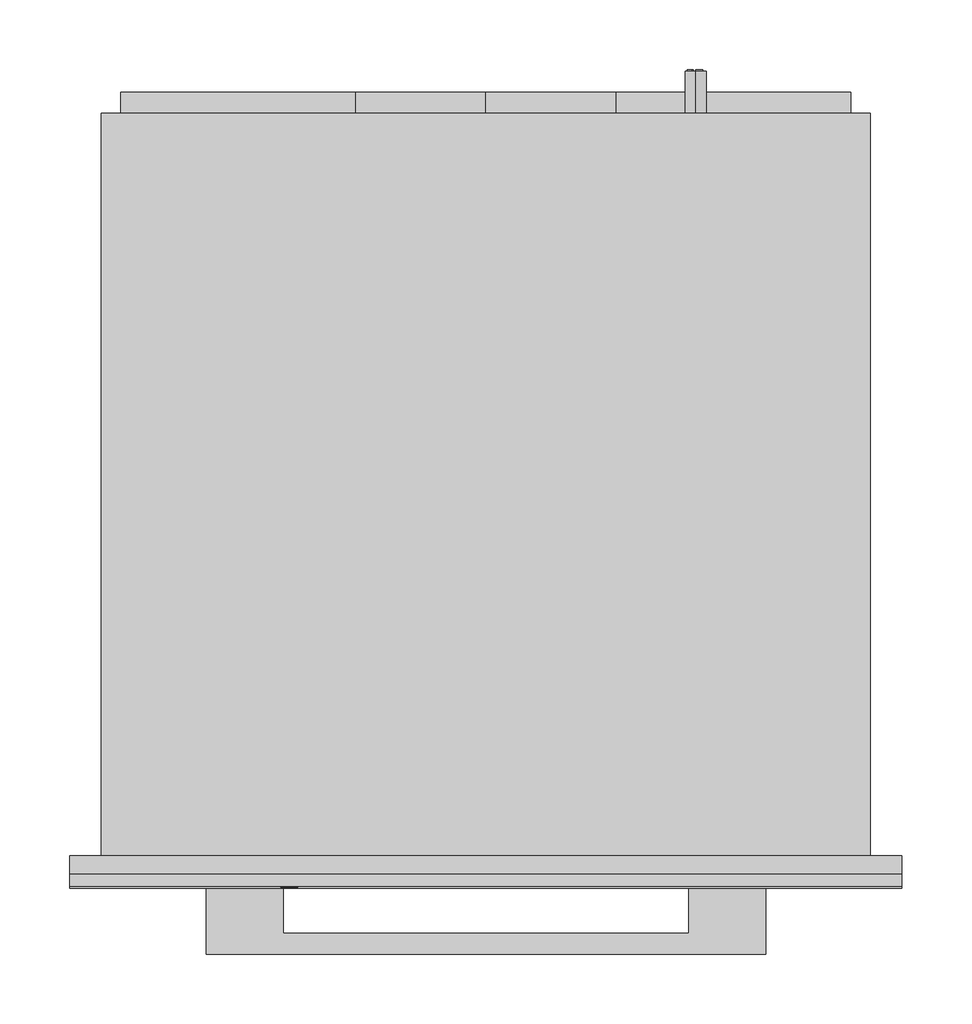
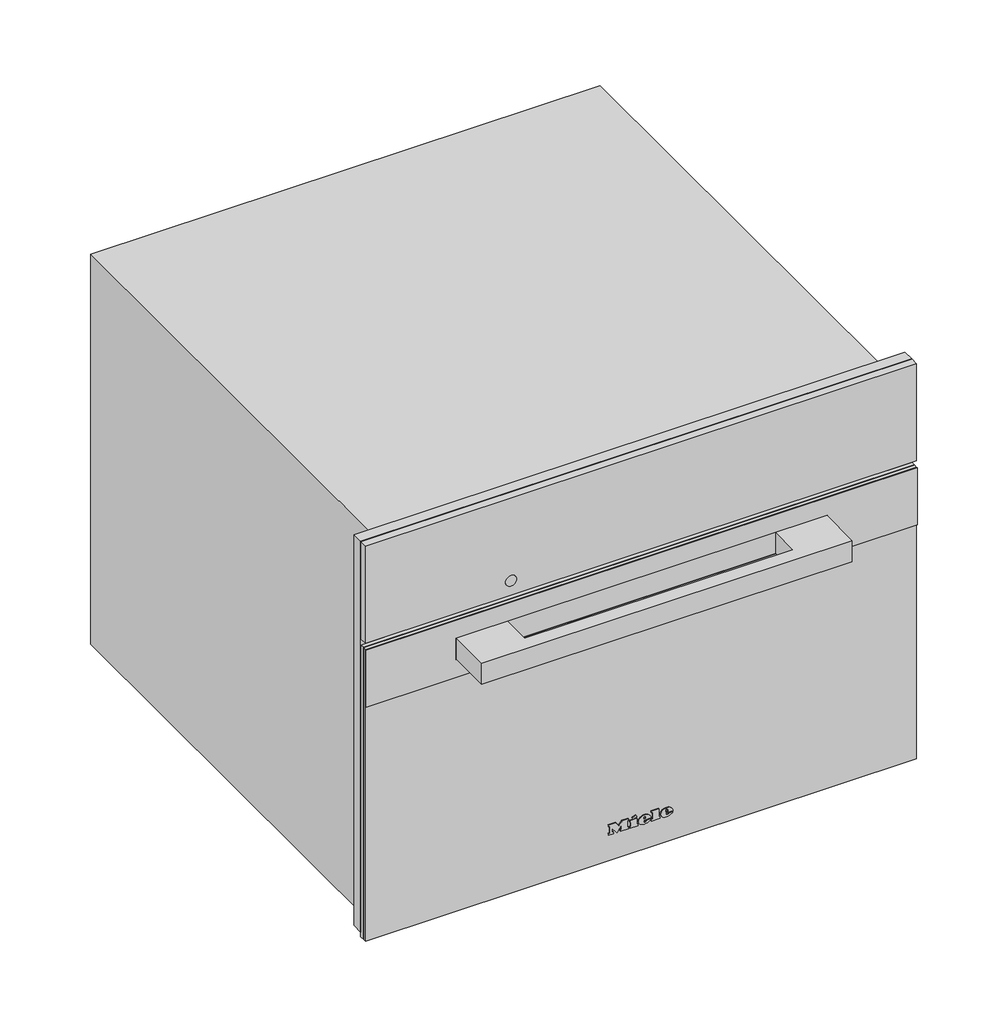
# Not in any storey: 1 proxy.
"""IFC4 building model written with IfcOpenShell, lengths in millimetres."""

import ifcopenshell
import ifcopenshell.guid

model = None  # the IFC model being written
_history = None  # IfcOwnerHistory: only IFC2X3 demands one
_inside = {}  # id of a spatial element -> (the spatial element, [elements in it])
_under = {}  # id of a project, library or spatial element -> (it, [spatial elements below it])
_declared = {}  # id of a project -> (the project, [libraries it declares])
_typed = {}  # id of a type object -> (the type object, [elements of that type])
_made_of = {}  # id of a material, layer set ... -> (it, [elements and type objects made of it])


def new_model(schema):
    """Start an empty IFC model of exactly this schema.

    Asked for "IFC4X3", IfcOpenShell would pick the latest addendum, in which some entities
    have other attributes; the version numbers below select the first issue.
    IFC2X3 requires an IfcOwnerHistory on every rooted entity: one is made here for all.
    """
    global model, _history
    if schema == "IFC4X3":
        model = ifcopenshell.file(schema_version=(4, 3, 0, 0))
    else:
        model = ifcopenshell.file(schema=schema)
    _inside.clear()
    _under.clear()
    _declared.clear()
    _typed.clear()
    _made_of.clear()
    _history = None
    if model.schema == "IFC2X3":
        org = make("IfcOrganization", Name="unknown")
        user = make(
            "IfcPersonAndOrganization",
            ThePerson=make("IfcPerson", FamilyName="unknown"),
            TheOrganization=org,
        )
        app = make(
            "IfcApplication",
            ApplicationDeveloper=org,
            Version="unknown",
            ApplicationFullName="unknown",
            ApplicationIdentifier="unknown",
        )
        _history = make(
            "IfcOwnerHistory",
            OwningUser=user,
            OwningApplication=app,
            ChangeAction="ADDED",
            CreationDate=0,
        )
    return model


def make(cls, **values):
    """One entity of the class cls with the attributes given. An attribute that is None is left unset."""
    return model.create_entity(
        cls, **{name: value for name, value in values.items() if value is not None}
    )


def rooted(cls, **values):
    """An entity with a GlobalId (a new one), such as an element, a storey or a relation."""
    return make(cls, GlobalId=ifcopenshell.guid.new(), OwnerHistory=_history, **values)


def si_unit(unit_type, name, prefix=None):
    """IfcSIUnit, for example si_unit("LENGTHUNIT", "METRE", prefix="MILLI")."""
    return make("IfcSIUnit", UnitType=unit_type, Prefix=prefix, Name=name)


def assignment(units):
    """IfcUnitAssignment: the units of a project."""
    return None if units is None else make("IfcUnitAssignment", Units=units)


def point(xyz):
    """IfcCartesianPoint."""
    return None if xyz is None else make("IfcCartesianPoint", Coordinates=xyz)


def direction(xyz):
    """IfcDirection."""
    return None if xyz is None else make("IfcDirection", DirectionRatios=xyz)


def frame(location, z_axis=None, x_axis=None):
    """IfcAxis2Placement3D, a coordinate frame: its origin and axes. An axis left out is left unset."""
    return make(
        "IfcAxis2Placement3D",
        Location=point(location),
        Axis=direction(z_axis),
        RefDirection=direction(x_axis),
    )


def frame_2d(location, x_axis=None):
    """IfcAxis2Placement2D, a coordinate frame in the plane: its origin and x axis."""
    return make(
        "IfcAxis2Placement2D", Location=point(location), RefDirection=direction(x_axis)
    )


def origin():
    """The frame at (0, 0, 0) with its axes left unset."""
    return frame((0.0, 0.0, 0.0))


def place(relative_to, where):
    """IfcLocalPlacement: puts the frame where relative to a parent placement (None: the world)."""
    return make(
        "IfcLocalPlacement", PlacementRelTo=relative_to, RelativePlacement=where
    )


def context(
    kind, dimensions, precision=None, world=None, true_north=None, identifier=None
):
    """IfcGeometricRepresentationContext, for example the 3D "Model" context."""
    return make(
        "IfcGeometricRepresentationContext",
        ContextIdentifier=identifier,
        ContextType=kind,
        CoordinateSpaceDimension=dimensions,
        Precision=precision,
        WorldCoordinateSystem=world,
        TrueNorth=true_north,
    )


def project(units=None, contexts=None):
    """IfcProject with its units and contexts."""
    return rooted(
        "IfcProject",
        Name="project",
        RepresentationContexts=contexts,
        UnitsInContext=assignment(units),
    )


def spatial(cls, under=None, at=None, **own):
    """A site, building, storey or space (cls), placed at a placement, below another one or the project."""
    s = rooted(cls, ObjectPlacement=at, **own)
    if under is not None:
        _under.setdefault(under.id(), (under, []))[1].append(s)
    return s


def polyline(points):
    """IfcPolyline through the points."""
    return make("IfcPolyline", Points=[point(p) for p in points])


def circle_curve(where, radius):
    """IfcCircle in the frame where."""
    return make("IfcCircle", Position=where, Radius=radius)


def ellipse_curve(where, semi_axis1, semi_axis2):
    """IfcEllipse in the frame where."""
    return make(
        "IfcEllipse", Position=where, SemiAxis1=semi_axis1, SemiAxis2=semi_axis2
    )


def trimmed(basis, trim1, trim2, sense, master):
    """IfcTrimmedCurve: the piece of a basis curve between two trims."""
    return make(
        "IfcTrimmedCurve",
        BasisCurve=basis,
        Trim1=trim1,
        Trim2=trim2,
        SenseAgreement=sense,
        MasterRepresentation=master,
    )


def segment(curve, same_sense, transition):
    """IfcCompositeCurveSegment."""
    return make(
        "IfcCompositeCurveSegment",
        Transition=transition,
        SameSense=same_sense,
        ParentCurve=curve,
    )


def composite_curve(segments, self_intersect=None):
    """IfcCompositeCurve: segments joined end to end."""
    return make("IfcCompositeCurve", Segments=segments, SelfIntersect=self_intersect)


def outline(outer, holes=None, kind="AREA"):
    """IfcArbitraryClosedProfileDef: a profile drawn as a closed curve; with holes, ...WithVoids."""
    if holes is None:
        return make("IfcArbitraryClosedProfileDef", ProfileType=kind, OuterCurve=outer)
    return make(
        "IfcArbitraryProfileDefWithVoids",
        ProfileType=kind,
        OuterCurve=outer,
        InnerCurves=holes,
    )


def extrude(swept, where, along, depth):
    """IfcExtrudedAreaSolid: the profile swept, set in the frame where, extruded along a direction by depth."""
    return make(
        "IfcExtrudedAreaSolid",
        SweptArea=swept,
        Position=where,
        ExtrudedDirection=direction(along),
        Depth=depth,
    )


def faces_of(points, faces, orient=None, outer=None):
    """IfcFace entities. A face is a list of loops; a loop is a list of indices into points, from 0.

    orient and outer hold one flag for each loop. By default every Orientation is true, the
    first loop of a face is its IfcFaceOuterBound and the others are IfcFaceBound.
    """
    made = []
    for i, loops in enumerate(faces):
        bounds = []
        for j, loop in enumerate(loops):
            is_outer = j == 0 if outer is None else outer[i][j]
            bounds.append(
                make(
                    "IfcFaceOuterBound" if is_outer else "IfcFaceBound",
                    Bound=make("IfcPolyLoop", Polygon=[points[k] for k in loop]),
                    Orientation=True if orient is None else orient[i][j],
                )
            )
        made.append(make("IfcFace", Bounds=bounds))
    return made


def faceted_brep(points, faces, orient=None, outer=None, voids=None):
    """IfcFacetedBrep: a solid bounded by flat faces; with voids (closed shells), ...WithVoids."""
    shared = [point(p) for p in points]
    hull = make("IfcClosedShell", CfsFaces=faces_of(shared, faces, orient, outer))
    if voids is None:
        return make("IfcFacetedBrep", Outer=hull)
    return make(
        "IfcFacetedBrepWithVoids",
        Outer=hull,
        Voids=[
            make(cls, CfsFaces=faces_of(shared, fs, o, b)) for cls, fs, o, b in voids
        ],
    )


def shape(context_of_items, identifier, shape_type, items):
    """IfcShapeRepresentation: the items that make up one representation, for example the "Body"."""
    return make(
        "IfcShapeRepresentation",
        ContextOfItems=context_of_items,
        RepresentationIdentifier=identifier,
        RepresentationType=shape_type,
        Items=items,
    )


def source(mapping_origin, context_of_items, identifier, shape_type, items):
    """IfcRepresentationMap: a shape defined once, which mapped items show again and again."""
    return make(
        "IfcRepresentationMap",
        MappingOrigin=mapping_origin,
        MappedRepresentation=shape(context_of_items, identifier, shape_type, items),
    )


def transform(
    local_origin,
    x_axis=None,
    y_axis=None,
    z_axis=None,
    scale=None,
    scale2=None,
    scale3=None,
    uniform=True,
):
    """IfcCartesianTransformationOperator3D, or its non-uniform kind. x_axis, y_axis, z_axis: its Axis1, 2, 3."""
    if uniform:
        return make(
            "IfcCartesianTransformationOperator3D",
            Axis1=direction(x_axis),
            Axis2=direction(y_axis),
            LocalOrigin=point(local_origin),
            Scale=scale,
            Axis3=direction(z_axis),
        )
    return make(
        "IfcCartesianTransformationOperator3DnonUniform",
        Axis1=direction(x_axis),
        Axis2=direction(y_axis),
        LocalOrigin=point(local_origin),
        Scale=scale,
        Axis3=direction(z_axis),
        Scale2=scale2,
        Scale3=scale3,
    )


def mapped(mapping_source, mapping_target):
    """IfcMappedItem: shows the shape of a source again, moved by a transform."""
    return make(
        "IfcMappedItem", MappingSource=mapping_source, MappingTarget=mapping_target
    )


def made_of(thing, what):
    """Note that an element or type object is made of a material, layer set ...; save() writes the relation."""
    if what is not None:
        _made_of.setdefault(what.id(), (what, []))[1].append(thing)
    return thing


def element(
    cls,
    number,
    at=None,
    inside=None,
    cuts=None,
    type_object=None,
    material=None,
    context=None,
    identifier="Body",
    shape_type=None,
    held_by="IfcProductDefinitionShape",
    body=None,
    shapes=None,
    **own,
):
    """One element of the class cls, such as IfcWall. Its Tag is "e" and its number.

    at: its placement. inside: the storey or other place that contains it. cuts: it is an
    opening in that element (IfcRelVoidsElement). A single representation is given by context,
    identifier, shape_type and body (its items); several are given by shapes. held_by: the class
    of the entity that holds the representations. save() writes the other relations.
    """
    e = rooted(cls, Tag="e%d" % number, ObjectPlacement=at, **own)
    if body is not None:
        shapes = [shape(context, identifier, shape_type, body)]
    if shapes is not None:
        e.Representation = make(held_by, Representations=shapes)
    if inside is not None:
        _inside.setdefault(inside.id(), (inside, []))[1].append(e)
    if cuts is not None:
        rooted(
            "IfcRelVoidsElement", RelatingBuildingElement=cuts, RelatedOpeningElement=e
        )
    if type_object is not None:
        _typed.setdefault(type_object.id(), (type_object, []))[1].append(e)
    return made_of(e, material)


def aggregate(whole, parts):
    """IfcRelAggregates: a whole, such as a stair, and the parts it consists of."""
    return rooted("IfcRelAggregates", RelatingObject=whole, RelatedObjects=parts)


def save(model, path):
    """Write the relations noted so far, then the file.

    IfcRelAggregates (storeys below a building ...), IfcRelContainedInSpatialStructure (elements
    in a storey), IfcRelDefinesByType, IfcRelAssociatesMaterial and IfcRelDeclares: one each for
    every whole, place, type object, material and project.
    """
    for whole, parts in _under.values():
        aggregate(whole, parts)
    for where, things in _inside.values():
        rooted(
            "IfcRelContainedInSpatialStructure",
            RelatedElements=things,
            RelatingStructure=where,
        )
    for kind, things in _typed.values():
        rooted("IfcRelDefinesByType", RelatedObjects=things, RelatingType=kind)
    for what, things in _made_of.values():
        rooted("IfcRelAssociatesMaterial", RelatedObjects=things, RelatingMaterial=what)
    for by, libraries in _declared.values():
        rooted("IfcRelDeclares", RelatingContext=by, RelatedDefinitions=libraries)
    model.write(path)


def plane_surface(at):
    """IfcPlane: the flat surface through the origin of the frame at, square to its z axis."""
    return make("IfcPlane", Position=at)


def cylinder_surface(at, radius):
    """IfcCylindricalSurface: all points at the distance radius from the z axis of the frame at."""
    return make("IfcCylindricalSurface", Position=at, Radius=radius)


def revolved_surface(curve, axis_point, axis_direction):
    """IfcSurfaceOfRevolution: the curve turned about the line through axis_point along axis_direction."""
    return make(
        "IfcSurfaceOfRevolution",
        SweptCurve=make("IfcArbitraryOpenProfileDef", ProfileType="CURVE", Curve=curve),
        AxisPosition=make("IfcAxis1Placement", Location=point(axis_point), Axis=direction(axis_direction)),
    )


def extruded_surface(curve, direction_of_extrusion, depth):
    """IfcSurfaceOfLinearExtrusion: the curve pushed along a direction by depth."""
    return make(
        "IfcSurfaceOfLinearExtrusion",
        SweptCurve=make("IfcArbitraryOpenProfileDef", ProfileType="CURVE", Curve=curve),
        ExtrudedDirection=direction(direction_of_extrusion),
        Depth=depth,
    )


def advanced_brep(points, edges, surfaces, faces):
    """IfcAdvancedBrep: a solid bounded by faces that lie on surfaces and meet in shared edges.

    An edge is (start, end): straight between two places in points (the first is 0);
    or (start, end, curve); or (start, end, curve, False) where it runs against its curve.
    A face is (place in surfaces, loops), or (place, loops, False) where it looks against
    its surface's normal. A loop lists edges by number (the first is 1), with a minus sign
    where the edge is run from its end to its start. The first loop is the outer one.
    """
    corners = [point(p) for p in points]
    vertices = [make("IfcVertexPoint", VertexGeometry=c) for c in corners]
    made = []
    for start, end, *more in edges:
        made.append(
            make(
                "IfcEdgeCurve",
                EdgeStart=vertices[start],
                EdgeEnd=vertices[end],
                EdgeGeometry=more[0] if more else make("IfcPolyline", Points=[corners[start], corners[end]]),
                SameSense=more[1] if len(more) > 1 else True,
            )
        )
    hull = []
    for where, loops, *sense in faces:
        bounds = []
        for j, loop in enumerate(loops):
            ring = [make("IfcOrientedEdge", EdgeElement=made[abs(k) - 1], Orientation=k > 0) for k in loop]
            bounds.append(
                make(
                    "IfcFaceOuterBound" if j == 0 else "IfcFaceBound",
                    Bound=make("IfcEdgeLoop", EdgeList=ring),
                    Orientation=True,
                )
            )
        hull.append(make("IfcAdvancedFace", Bounds=bounds, FaceSurface=surfaces[where], SameSense=sense[0] if sense else True))
    return make("IfcAdvancedBrep", Outer=make("IfcClosedShell", CfsFaces=hull))


def specialty_equipment_7dd47745(model_context):
    return source(origin(), model_context, "Body", "SolidModel", [
        extrude(outline(polyline([(455.0, 297.5), (455.0, -297.5), (9.0, -297.5), (9.0, -272.5), (344.0, -272.5), (344.0, 272.5), (9.0, 272.5), (9.0, 297.5), (455.0, 297.5)])), frame((0.0, -13.0, 0.0), z_axis=(0.0, 1.0, 0.0), x_axis=(0.0, 0.0, 1.0)), (0.0, 0.0, 1.0), 13.0),
        advanced_brep(
        [(150.0, 561.0, 410.5), (150.0, 561.0, 395.5), (144.4098301, 561.0, 398.0), (148.5, 561.0, 398.0), (148.5, 561.0, 408.0), (147.4955303, 561.0, 408.0), (147.4955303, 561.0, 399.0), (144.0315043, 561.0, 399.0), (144.0315043, 561.0, 398.4582978), (155.0, 561.0, 398.0), (155.0, 561.0, 408.0), (150.0, 561.0, 408.0), (150.0, 561.0, 407.0), (154.0, 561.0, 407.0), (154.0, 561.0, 403.5), (151.0, 561.0, 403.5), (151.0, 561.0, 402.5), (154.0, 561.0, 402.5), (154.0, 561.0, 399.0), (150.0, 561.0, 399.0), (150.0, 561.0, 398.0), (150.0, 531.0, 395.5), (150.0, 531.0, 410.5), (155.0, 562.0, 408.0), (155.0, 562.0, 398.0), (150.0, 562.0, 398.0), (150.0, 562.0, 399.0), (154.0, 562.0, 399.0), (154.0, 562.0, 402.5), (151.0, 562.0, 402.5), (151.0, 562.0, 403.5), (154.0, 562.0, 403.5), (154.0, 562.0, 407.0), (150.0, 562.0, 407.0), (150.0, 562.0, 408.0), (148.5, 562.0, 398.0), (144.0315043, 562.0, 398.0), (144.0315043, 562.0, 399.0), (147.4955303, 562.0, 399.0), (147.4955303, 562.0, 408.0), (148.5, 562.0, 408.0), (144.0315043, 561.0, 398.0)],
        [
            (0, 1, circle_curve(frame((150.0, 561.0, 403.0), z_axis=(0.0, 1.0, 0.0), x_axis=(0.0, 0.0, 1.0)), 7.5)),
            (1, 2, circle_curve(frame((150.0, 561.0, 403.0), z_axis=(0.0, 1.0, 0.0), x_axis=(0.0, 0.0, 1.0)), 7.5)),
            (2, 3),
            (3, 4),
            (4, 5),
            (5, 6),
            (6, 7),
            (7, 8),
            (8, 0, circle_curve(frame((150.0, 561.0, 403.0), z_axis=(0.0, 1.0, 0.0), x_axis=(0.0, 0.0, 1.0)), 7.5)),
            (9, 10),
            (10, 11),
            (11, 12),
            (12, 13),
            (13, 14),
            (14, 15),
            (15, 16),
            (16, 17),
            (17, 18),
            (18, 19),
            (19, 20),
            (20, 9),
            (21, 22, circle_curve(frame((150.0, 531.0, 403.0), z_axis=(0.0, -1.0, 0.0), x_axis=(0.0, 0.0, 1.0)), 7.5)),
            (22, 21, circle_curve(frame((150.0, 531.0, 403.0), z_axis=(0.0, -1.0, 0.0), x_axis=(0.0, 0.0, 1.0)), 7.5)),
            (0, 22),
            (21, 1),
            (8, 2, circle_curve(frame((150.0, 561.0, 403.0), z_axis=(0.0, -1.0, 0.0), x_axis=(0.0, 0.0, 1.0)), 7.5)),
            (23, 24),
            (24, 25),
            (25, 26),
            (26, 27),
            (27, 28),
            (28, 29),
            (29, 30),
            (30, 31),
            (31, 32),
            (32, 33),
            (33, 34),
            (34, 23),
            (35, 36),
            (36, 37),
            (37, 38),
            (38, 39),
            (39, 40),
            (40, 35),
            (8, 41),
            (41, 2),
            (23, 10),
            (9, 24),
            (20, 25),
            (19, 26),
            (18, 27),
            (17, 28),
            (16, 29),
            (15, 30),
            (14, 31),
            (13, 32),
            (12, 33),
            (11, 34),
            (35, 3),
            (41, 36),
            (7, 37),
            (6, 38),
            (5, 39),
            (4, 40),
        ],
        [
            plane_surface(frame((150.0, 561.0, 410.5), z_axis=(0.0, 1.0, 0.0), x_axis=(1.0, 0.0, 0.0))),
            plane_surface(frame((150.0, 531.0, 410.5), z_axis=(0.0, -1.0, 0.0), x_axis=(-1.0, 0.0, 0.0))),
            cylinder_surface(frame((150.0, 561.0, 403.0), z_axis=(0.0, -1.0, 0.0), x_axis=(0.0, 0.0, 1.0)), 7.5),
            plane_surface(frame((155.0, 562.0, 408.0), z_axis=(0.0, 1.0, 0.0), x_axis=(0.0, 0.0, -1.0))),
            plane_surface(frame((155.0, 561.0, 408.0), z_axis=(0.0, -1.0, 0.0), x_axis=(0.0, 0.0, 1.0))),
            plane_surface(frame((155.0, 562.0, 408.0), z_axis=(1.0, 0.0, 0.0), x_axis=(0.0, -1.0, 0.0))),
            plane_surface(frame((155.0, 562.0, 398.0), z_axis=(0.0, 0.0, -1.0), x_axis=(0.0, -1.0, 0.0))),
            plane_surface(frame((150.0, 562.0, 398.0), z_axis=(-1.0, 0.0, 0.0), x_axis=(0.0, -1.0, 0.0))),
            plane_surface(frame((150.0, 562.0, 399.0), z_axis=(0.0, 0.0, 1.0), x_axis=(0.0, -1.0, 0.0))),
            plane_surface(frame((154.0, 562.0, 399.0), z_axis=(-1.0, 0.0, 0.0), x_axis=(0.0, -1.0, 0.0))),
            plane_surface(frame((154.0, 562.0, 402.5), z_axis=(0.0, 0.0, -1.0), x_axis=(0.0, -1.0, 0.0))),
            plane_surface(frame((151.0, 562.0, 402.5), z_axis=(-1.0, 0.0, 0.0), x_axis=(0.0, -1.0, 0.0))),
            plane_surface(frame((151.0, 562.0, 403.5), z_axis=(0.0, 0.0, 1.0), x_axis=(0.0, -1.0, 0.0))),
            plane_surface(frame((154.0, 562.0, 403.5), z_axis=(-1.0, 0.0, 0.0), x_axis=(0.0, -1.0, 0.0))),
            plane_surface(frame((154.0, 562.0, 407.0), z_axis=(0.0, 0.0, -1.0), x_axis=(0.0, -1.0, 0.0))),
            plane_surface(frame((150.0, 562.0, 407.0), z_axis=(-1.0, 0.0, 0.0), x_axis=(0.0, -1.0, 0.0))),
            plane_surface(frame((150.0, 562.0, 408.0), z_axis=(0.0, 0.0, 1.0), x_axis=(0.0, -1.0, 0.0))),
            plane_surface(frame((148.5, 562.0, 398.0), z_axis=(0.0, 0.0, -1.0), x_axis=(0.0, -1.0, 0.0))),
            plane_surface(frame((144.0315043, 562.0, 398.0), z_axis=(-1.0, 0.0, 0.0), x_axis=(0.0, -1.0, 0.0))),
            plane_surface(frame((144.0315043, 562.0, 399.0), z_axis=(0.0, 0.0, 1.0), x_axis=(0.0, -1.0, 0.0))),
            plane_surface(frame((147.4955303, 562.0, 399.0), z_axis=(-1.0, 0.0, 0.0), x_axis=(0.0, -1.0, 0.0))),
            plane_surface(frame((147.4955303, 562.0, 408.0), z_axis=(0.0, 0.0, 1.0), x_axis=(0.0, -1.0, 0.0))),
            plane_surface(frame((148.5, 562.0, 408.0), z_axis=(1.0, 0.0, 0.0), x_axis=(0.0, -1.0, 0.0))),
        ],
        [
            (0, [[1, 2, 3, 4, 5, 6, 7, 8, 9], [10, 11, 12, 13, 14, 15, 16, 17, 18, 19, 20, 21]]),
            (1, [[22, 23]]),
            (2, [[-1, 24, -22, 25]]),
            (2, [[-23, -24, -9, 26, -2, -25]]),
            (3, [[27, 28, 29, 30, 31, 32, 33, 34, 35, 36, 37, 38]]),
            (3, [[39, 40, 41, 42, 43, 44]]),
            (4, [[45, 46, -26]]),
            (5, [[-27, 47, -10, 48]]),
            (6, [[-28, -48, -21, 49]]),
            (7, [[-29, -49, -20, 50]]),
            (8, [[-30, -50, -19, 51]]),
            (9, [[-31, -51, -18, 52]]),
            (10, [[-32, -52, -17, 53]]),
            (11, [[-33, -53, -16, 54]]),
            (12, [[-34, -54, -15, 55]]),
            (13, [[-35, -55, -14, 56]]),
            (14, [[-36, -56, -13, 57]]),
            (15, [[-37, -57, -12, 58]]),
            (16, [[-38, -58, -11, -47]]),
            (17, [[-39, 59, -3, -46, 60]]),
            (18, [[-40, -60, -45, -8, 61]]),
            (19, [[-41, -61, -7, 62]]),
            (20, [[-42, -62, -6, 63]]),
            (21, [[-43, -63, -5, 64]]),
            (22, [[-44, -64, -4, -59]]),
        ],
    ),
        extrude(outline(polyline([(299.0, -93.0), (258.0, -93.0), (258.0, -261.0), (111.0, -261.0), (111.0, -93.0), (70.0, -93.0), (70.0, 0.0), (70.0, 93.0), (111.0, 93.0), (111.0, 261.0), (258.0, 261.0), (258.0, 93.0), (299.0, 93.0), (299.0, 0.0), (299.0, -93.0)])), frame((0.0, 531.0, 0.0), z_axis=(0.0, 1.0, 0.0), x_axis=(0.0, 0.0, 1.0)), (0.0, 0.0, 1.0), 15.0),
        faceted_brep([(275.0, 531.0, 445.0), (275.0, 531.0, 0.0), (-275.0, 531.0, 0.0), (-275.0, 531.0, 445.0), (275.0, 0.0, 445.0), (-275.0, 0.0, 445.0), (-275.0, 0.0, 0.0), (275.0, 0.0, 0.0), (-272.5, 0.0, 344.0), (272.5, 0.0, 344.0), (272.5, 0.0, 8.0), (-272.5, 0.0, 8.0), (272.5, 34.0, 344.0), (-272.5, 34.0, 344.0), (-272.5, 34.0, 8.0), (272.5, 34.0, 8.0), (161.0, 34.0, 286.0), (161.0, 34.0, 58.0), (-220.0, 34.0, 58.0), (-220.0, 34.0, 286.0), (161.0, 444.0, 286.0), (-220.0, 444.0, 286.0), (-220.0, 444.0, 58.0), (161.0, 444.0, 58.0)], [[[0, 1, 2, 3]], [[4, 5, 6, 7], [8, 9, 10, 11]], [[0, 3, 5, 4]], [[3, 2, 6, 5]], [[2, 1, 7, 6]], [[1, 0, 4, 7]], [[12, 13, 14, 15], [16, 17, 18, 19]], [[13, 12, 9, 8]], [[14, 13, 8, 11]], [[15, 14, 11, 10]], [[12, 15, 10, 9]], [[20, 21, 22, 23]], [[20, 23, 17, 16]], [[23, 22, 18, 17]], [[22, 21, 19, 18]], [[21, 20, 16, 19]]]),
        advanced_brep(
        [(26.2998, -23.0, 36.7018), (26.2998, -23.0, 37.8532), (33.9264, -23.0, 37.8532), (20.6568, -23.0, 37.8532), (23.7918, -23.0, 34.0), (33.7326, -23.0, 36.7018), (30.2898, -23.0, 36.7018), (27.5766, -23.0, 35.425), (26.2998, -23.0, 39.3124), (26.2998, -23.0, 40.555), (28.2492, -23.0, 40.555), (28.2492, -23.0, 39.3124), (26.2998, -22.0, 36.7018), (27.5766, -22.0, 35.425), (30.2898, -22.0, 36.7018), (33.7326, -22.0, 36.7018), (23.7918, -22.0, 34.0), (20.6568, -22.0, 37.8532), (33.9264, -22.0, 37.8532), (26.2998, -22.0, 37.8532), (26.2998, -22.0, 39.3124), (28.2492, -22.0, 39.3124), (28.2492, -22.0, 40.555), (26.2998, -22.0, 40.555)],
        [
            (0, 1),
            (1, 2),
            (2, 3, ellipse_curve(frame((27.2916, -23.0, 37.8532), z_axis=(0.0, -1.0, 0.0), x_axis=(-1.0, 0.0, 0.0)), 6.6348, 5.4834)),
            (3, 4, circle_curve(frame((25.0686622, -23.0, 38.2408), z_axis=(0.0, -1.0, 0.0), x_axis=(0.0, 0.0, -1.0)), 4.4288556)),
            (4, 5, circle_curve(frame((27.1587808, -23.0, 41.2504), z_axis=(0.0, -1.0, 0.0), x_axis=(0.0, 0.0, -1.0)), 7.9940516)),
            (5, 6),
            (6, 7, circle_curve(frame((28.1338588, -23.0, 37.762), z_axis=(0.0, 1.0, 0.0), x_axis=(0.0, 0.0, -1.0)), 2.4025208)),
            (7, 0, circle_curve(frame((27.5766, -23.0, 36.7018), z_axis=(0.0, 1.0, 0.0), x_axis=(0.0, 0.0, -1.0)), 1.2768)),
            (8, 9),
            (9, 10, circle_curve(frame((27.2745, -23.0, 40.555), z_axis=(0.0, 1.0, 0.0), x_axis=(0.0, 0.0, -1.0)), 0.9747)),
            (10, 11),
            (11, 8),
            (12, 13, circle_curve(frame((27.5766, -22.0, 36.7018), z_axis=(0.0, -1.0, 0.0), x_axis=(0.0, 0.0, -1.0)), 1.2768)),
            (13, 14, circle_curve(frame((28.1338588, -22.0, 37.762), z_axis=(0.0, -1.0, 0.0), x_axis=(0.0, 0.0, -1.0)), 2.4025208)),
            (14, 15),
            (15, 16, circle_curve(frame((27.1587808, -22.0, 41.2504), z_axis=(0.0, 1.0, 0.0), x_axis=(0.0, 0.0, -1.0)), 7.9940516)),
            (16, 17, circle_curve(frame((25.0686622, -22.0, 38.2408), z_axis=(0.0, 1.0, 0.0), x_axis=(0.0, 0.0, -1.0)), 4.4288556)),
            (17, 18, ellipse_curve(frame((27.2916, -22.0, 37.8532), z_axis=(0.0, 1.0, 0.0), x_axis=(-1.0, 0.0, 0.0)), 6.6348, 5.4834)),
            (18, 19),
            (19, 12),
            (20, 21),
            (21, 22),
            (22, 23, circle_curve(frame((27.2745, -22.0, 40.555), z_axis=(0.0, -1.0, 0.0), x_axis=(0.0, 0.0, -1.0)), 0.9747)),
            (23, 20),
            (0, 12),
            (19, 1),
            (18, 2),
            (5, 15),
            (14, 6),
            (17, 3),
            (13, 7),
            (16, 4),
            (8, 20),
            (23, 9),
            (22, 10),
            (21, 11),
        ],
        [
            plane_surface(frame((26.2998, -23.0, 37.8532), z_axis=(0.0, -1.0, 0.0), x_axis=(0.0, 0.0, 1.0))),
            plane_surface(frame((26.2998, -22.0, 37.8532), z_axis=(0.0, 1.0, 0.0), x_axis=(0.0, 0.0, -1.0))),
            plane_surface(frame((26.2998, -23.0, 36.7018), z_axis=(1.0, 0.0, 0.0), x_axis=(0.0, 1.0, 0.0))),
            plane_surface(frame((26.2998, -23.0, 37.8532), z_axis=(0.0, 0.0, -1.0), x_axis=(0.0, 1.0, 0.0))),
            plane_surface(frame((33.7326, -23.0, 36.7018), z_axis=(0.0, 0.0, 1.0), x_axis=(0.0, 1.0, 0.0))),
            extruded_surface(trimmed(ellipse_curve(frame((27.2916, -21.0, 37.8532), z_axis=(0.0, -1.0, 0.0), x_axis=(-1.0, 0.0, 0.0)), 6.6348, 5.4834), [point((33.9264, -21.0, 37.8532))], [point((20.6568, -21.0, 37.8532))], True, "CARTESIAN"), (0.0, -1.0, 0.0), 1.0),
            revolved_surface(polyline([(28.1338588, -22.0, 35.3594792), (28.1338588, -23.0, 35.3594792)]), (28.1338588, -22.0, 37.762), (0.0, 1.0, 0.0)),
            revolved_surface(polyline([(27.5766, -22.0, 35.425), (27.5766, -23.0, 35.425)]), (27.5766, -22.0, 36.7018), (0.0, 1.0, 0.0)),
            cylinder_surface(frame((25.0686622, -22.0, 38.2408), z_axis=(0.0, -1.0, 0.0), x_axis=(0.0, 0.0, -1.0)), 4.4288556),
            cylinder_surface(frame((27.1587808, -22.0, 41.2504), z_axis=(0.0, -1.0, 0.0), x_axis=(0.0, 0.0, -1.0)), 7.9940516),
            plane_surface(frame((26.2998, -23.0, 39.3124), z_axis=(1.0, 0.0, 0.0), x_axis=(0.0, 1.0, 0.0))),
            revolved_surface(polyline([(27.2745, -22.0, 39.5803), (27.2745, -23.0, 39.5803)]), (27.2745, -22.0, 40.555), (0.0, 1.0, 0.0)),
            plane_surface(frame((28.2492, -23.0, 40.555), z_axis=(-1.0, 0.0, 0.0), x_axis=(0.0, 1.0, 0.0))),
            plane_surface(frame((28.2492, -23.0, 39.3124), z_axis=(0.0, 0.0, 1.0), x_axis=(0.0, 1.0, 0.0))),
        ],
        [
            (0, [[1, 2, 3, 4, 5, 6, 7, 8], [9, 10, 11, 12]]),
            (1, [[13, 14, 15, 16, 17, 18, 19, 20], [21, 22, 23, 24]]),
            (2, [[-1, 25, -20, 26]]),
            (3, [[-2, -26, -19, 27]]),
            (4, [[-6, 28, -15, 29]]),
            (5, [[-3, -27, -18, 30]]),
            (6, [[-7, -29, -14, 31]]),
            (7, [[-8, -31, -13, -25]]),
            (8, [[-4, -30, -17, 32]]),
            (9, [[-5, -32, -16, -28]]),
            (10, [[-9, 33, -24, 34]]),
            (11, [[-10, -34, -23, 35]]),
            (12, [[-11, -35, -22, 36]]),
            (13, [[-12, -36, -21, -33]]),
        ],
    ),
        advanced_brep(
        [(2.508, -23.0, 36.7018), (2.508, -23.0, 37.8532), (10.1346, -23.0, 37.8532), (-3.135, -23.0, 37.8532), (0.0, -23.0, 34.0), (9.9408, -23.0, 36.7018), (6.498, -23.0, 36.7018), (3.7848, -23.0, 35.425), (2.508, -23.0, 39.3124), (2.508, -23.0, 40.555), (4.4574, -23.0, 40.555), (4.4574, -23.0, 39.3124), (2.508, -22.0, 36.7018), (3.7848, -22.0, 35.425), (6.498, -22.0, 36.7018), (9.9408, -22.0, 36.7018), (0.0, -22.0, 34.0), (-3.135, -22.0, 37.8532), (10.1346, -22.0, 37.8532), (2.508, -22.0, 37.8532), (2.508, -22.0, 39.3124), (4.4574, -22.0, 39.3124), (4.4574, -22.0, 40.555), (2.508, -22.0, 40.555)],
        [
            (0, 1),
            (1, 2),
            (2, 3, ellipse_curve(frame((3.4998, -23.0, 37.8532), z_axis=(0.0, -1.0, 0.0), x_axis=(-1.0, 0.0, 0.0)), 6.6348, 5.4834)),
            (3, 4, circle_curve(frame((1.2768622, -23.0, 38.2408), z_axis=(0.0, -1.0, 0.0), x_axis=(0.0, 0.0, -1.0)), 4.4288556)),
            (4, 5, circle_curve(frame((3.3669808, -23.0, 41.2504), z_axis=(0.0, -1.0, 0.0), x_axis=(0.0, 0.0, -1.0)), 7.9940516)),
            (5, 6),
            (6, 7, circle_curve(frame((4.3420588, -23.0, 37.762), z_axis=(0.0, 1.0, 0.0), x_axis=(0.0, 0.0, -1.0)), 2.4025208)),
            (7, 0, circle_curve(frame((3.7848, -23.0, 36.7018), z_axis=(0.0, 1.0, 0.0), x_axis=(0.0, 0.0, -1.0)), 1.2768)),
            (8, 9),
            (9, 10, circle_curve(frame((3.4827, -23.0, 40.555), z_axis=(0.0, 1.0, 0.0), x_axis=(0.0, 0.0, -1.0)), 0.9747)),
            (10, 11),
            (11, 8),
            (12, 13, circle_curve(frame((3.7848, -22.0, 36.7018), z_axis=(0.0, -1.0, 0.0), x_axis=(0.0, 0.0, -1.0)), 1.2768)),
            (13, 14, circle_curve(frame((4.3420588, -22.0, 37.762), z_axis=(0.0, -1.0, 0.0), x_axis=(0.0, 0.0, -1.0)), 2.4025208)),
            (14, 15),
            (15, 16, circle_curve(frame((3.3669808, -22.0, 41.2504), z_axis=(0.0, 1.0, 0.0), x_axis=(0.0, 0.0, -1.0)), 7.9940516)),
            (16, 17, circle_curve(frame((1.2768622, -22.0, 38.2408), z_axis=(0.0, 1.0, 0.0), x_axis=(0.0, 0.0, -1.0)), 4.4288556)),
            (17, 18, ellipse_curve(frame((3.4998, -22.0, 37.8532), z_axis=(0.0, 1.0, 0.0), x_axis=(-1.0, 0.0, 0.0)), 6.6348, 5.4834)),
            (18, 19),
            (19, 12),
            (20, 21),
            (21, 22),
            (22, 23, circle_curve(frame((3.4827, -22.0, 40.555), z_axis=(0.0, -1.0, 0.0), x_axis=(0.0, 0.0, -1.0)), 0.9747)),
            (23, 20),
            (0, 12),
            (19, 1),
            (18, 2),
            (5, 15),
            (14, 6),
            (17, 3),
            (13, 7),
            (16, 4),
            (8, 20),
            (23, 9),
            (22, 10),
            (21, 11),
        ],
        [
            plane_surface(frame((2.508, -23.0, 37.8532), z_axis=(0.0, -1.0, 0.0), x_axis=(0.0, 0.0, 1.0))),
            plane_surface(frame((2.508, -22.0, 37.8532), z_axis=(0.0, 1.0, 0.0), x_axis=(0.0, 0.0, -1.0))),
            plane_surface(frame((2.508, -23.0, 36.7018), z_axis=(1.0, 0.0, 0.0), x_axis=(0.0, 1.0, 0.0))),
            plane_surface(frame((2.508, -23.0, 37.8532), z_axis=(0.0, 0.0, -1.0), x_axis=(0.0, 1.0, 0.0))),
            plane_surface(frame((9.9408, -23.0, 36.7018), z_axis=(0.0, 0.0, 1.0), x_axis=(0.0, 1.0, 0.0))),
            extruded_surface(trimmed(ellipse_curve(frame((3.4998, -21.0, 37.8532), z_axis=(0.0, -1.0, 0.0), x_axis=(-1.0, 0.0, 0.0)), 6.6348, 5.4834), [point((10.1346, -21.0, 37.8532))], [point((-3.135, -21.0, 37.8532))], True, "CARTESIAN"), (0.0, -1.0, 0.0), 1.0),
            revolved_surface(polyline([(4.3420588, -22.0, 35.3594792), (4.3420588, -23.0, 35.3594792)]), (4.3420588, -22.0, 37.762), (0.0, 1.0, 0.0)),
            revolved_surface(polyline([(3.7848, -22.0, 35.425), (3.7848, -23.0, 35.425)]), (3.7848, -22.0, 36.7018), (0.0, 1.0, 0.0)),
            cylinder_surface(frame((1.2768622, -22.0, 38.2408), z_axis=(0.0, -1.0, 0.0), x_axis=(0.0, 0.0, -1.0)), 4.4288556),
            cylinder_surface(frame((3.3669808, -22.0, 41.2504), z_axis=(0.0, -1.0, 0.0), x_axis=(0.0, 0.0, -1.0)), 7.9940516),
            plane_surface(frame((2.508, -23.0, 39.3124), z_axis=(1.0, 0.0, 0.0), x_axis=(0.0, 1.0, 0.0))),
            revolved_surface(polyline([(3.4827, -22.0, 39.5803), (3.4827, -23.0, 39.5803)]), (3.4827, -22.0, 40.555), (0.0, 1.0, 0.0)),
            plane_surface(frame((4.4574, -23.0, 40.555), z_axis=(-1.0, 0.0, 0.0), x_axis=(0.0, 1.0, 0.0))),
            plane_surface(frame((4.4574, -23.0, 39.3124), z_axis=(0.0, 0.0, 1.0), x_axis=(0.0, 1.0, 0.0))),
        ],
        [
            (0, [[1, 2, 3, 4, 5, 6, 7, 8], [9, 10, 11, 12]]),
            (1, [[13, 14, 15, 16, 17, 18, 19, 20], [21, 22, 23, 24]]),
            (2, [[-1, 25, -20, 26]]),
            (3, [[-2, -26, -19, 27]]),
            (4, [[-6, 28, -15, 29]]),
            (5, [[-3, -27, -18, 30]]),
            (6, [[-7, -29, -14, 31]]),
            (7, [[-8, -31, -13, -25]]),
            (8, [[-4, -30, -17, 32]]),
            (9, [[-5, -32, -16, -28]]),
            (10, [[-9, 33, -24, 34]]),
            (11, [[-10, -34, -23, 35]]),
            (12, [[-11, -35, -22, 36]]),
            (13, [[-12, -36, -21, -33]]),
        ],
    ),
        extrude(outline(polyline([(44.7274, -9.9522), (42.8806, -9.0858), (44.6818, -5.2212), (46.5286, -6.0762), (44.7274, -9.9522)])), frame((0.0, -23.0, 0.0), z_axis=(0.0, 1.0, 0.0), x_axis=(0.0, 0.0, 1.0)), (0.0, 0.0, 1.0), 1.0),
        extrude(outline(polyline([(42.6298, -12.768), (40.5892, -12.768), (40.5892, -11.4114), (35.9152, -11.4114), (35.9152, -12.768), (34.0, -12.768), (34.0, -3.7734), (35.9152, -3.7734), (35.9152, -5.0958), (42.6298, -5.0958), (42.6298, -12.768)])), frame((0.0, -23.0, 0.0), z_axis=(0.0, 1.0, 0.0), x_axis=(0.0, 0.0, 1.0)), (0.0, 0.0, 1.0), 1.0),
        extrude(outline(polyline([(43.5418, 10.773), (43.5418, 12.141), (35.9152, 12.141), (35.9152, 10.773), (34.0, 10.773), (34.0, 20.0184), (35.9152, 20.0184), (35.9152, 18.6162), (45.4, 18.6162), (45.4, 10.773), (43.5418, 10.773)])), frame((0.0, -23.0, 0.0), z_axis=(0.0, 1.0, 0.0), x_axis=(0.0, 0.0, 1.0)), (0.0, 0.0, 1.0), 1.0),
        extrude(outline(polyline([(43.5418, -35.4882), (43.5418, -34.1088), (35.9152, -34.1088), (35.9152, -35.4882), (34.0, -35.4882), (34.0, -30.4722), (35.9152, -30.4722), (35.9152, -31.8402), (40.7429247, -31.8402), (34.0, -26.7444), (40.9402223, -21.6258), (35.9152, -21.6258), (35.9152, -23.028), (34.0, -23.028), (34.0, -13.9308), (35.9152, -13.9308), (35.9152, -15.3786), (43.5418, -15.3786), (43.5418, -13.9308), (45.4, -13.9308), (45.4, -20.8734), (41.125, -24.2022), (45.4, -27.5424), (45.4, -35.4882), (43.5418, -35.4882)])), frame((0.0, -23.0, 0.0), z_axis=(0.0, 1.0, 0.0), x_axis=(0.0, 0.0, 1.0)), (0.0, 0.0, 1.0), 1.0),
        extrude(outline(polyline([(297.5, -22.0), (-297.5, -22.0), (-297.5, -13.0), (297.5, -13.0), (297.5, -22.0)])), frame((0.0, 0.0, 344.0), z_axis=(0.0, 0.0, 1.0), x_axis=(1.0, 0.0, 0.0)), (0.0, 0.0, 1.0), 111.0),
        extrude(outline(composite_curve([segment(trimmed(circle_curve(frame_2d((361.0, -140.5745637)), 6.0), [point((361.0, -146.5745637))], [point((361.0, -134.5745637))], False, "CARTESIAN"), True, "CONTINUOUS"), segment(trimmed(circle_curve(frame_2d((361.0, -140.5745637)), 6.0), [point((361.0, -134.5745637))], [point((361.0, -146.5745637))], False, "CARTESIAN"), True, "CONTINUOUS")], self_intersect=False)), frame((0.0, -22.5, 0.0), z_axis=(0.0, 1.0, 0.0), x_axis=(0.0, 0.0, 1.0)), (0.0, 0.0, 1.0), 1.0),
        extrude(outline(polyline([(297.5, -18.0), (-297.5, -18.0), (-297.5, -13.0), (297.5, -13.0), (297.5, -18.0)])), frame((0.0, 0.0, 4.0), z_axis=(0.0, 0.0, 1.0), x_axis=(1.0, 0.0, 0.0)), (0.0, 0.0, 1.0), 333.0),
        extrude(outline(polyline([(-297.5, -18.0), (297.5, -18.0), (297.5, -22.0), (-297.5, -22.0), (-297.5, -18.0)])), frame((0.0, 0.0, 4.0), z_axis=(0.0, 0.0, 1.0), x_axis=(1.0, 0.0, 0.0)), (0.0, 0.0, 1.0), 333.0),
        extrude(outline(polyline([(-200.0, -70.3), (-200.0, -22.0), (-145.0, -22.0), (-145.0, -55.3), (145.0, -55.3), (145.0, -22.0), (200.0, -22.0), (200.0, -70.3), (-200.0, -70.3)])), frame((0.0, 0.0, 292.5), z_axis=(0.0, 0.0, 1.0), x_axis=(1.0, 0.0, 0.0)), (0.0, 0.0, 1.0), 24.0),
        extrude(outline(polyline([(337.0, 297.5), (337.0, -297.5), (272.0, -297.5), (272.0, 297.5), (337.0, 297.5)]), holes=[polyline([(317.0, -200.5), (317.0, 200.5), (292.0, 200.5), (292.0, -200.5), (317.0, -200.5)])]), frame((0.0, -23.3, 0.0), z_axis=(0.0, 1.0, 0.0), x_axis=(0.0, 0.0, 1.0)), (0.0, 0.0, 1.0), 1.3),
    ])


model = new_model("IFC4")

# Units and contexts
model_context = context("Model", 3, world=origin())
ifc_project = project(units=[si_unit("LENGTHUNIT", "METRE", prefix="MILLI")], contexts=[model_context])

# Site, building
site = spatial("IfcSite", under=ifc_project)
building = spatial("IfcBuilding", under=site)

# Proxy
placement = place(None, origin())
specialty_equipment_shape = specialty_equipment_7dd47745(model_context)
element("IfcBuildingElementProxy", 1, Name="11134280_I_DG7440_EDST-CLST : 23744040_I_11134280_DG7440_EDST-CLST", ObjectType="11134280_I_DG7440_EDST-CLST : 23744040_I_11134280_DG7440_EDST-CLST", at=placement, inside=building, context=model_context, shape_type="MappedRepresentation", body=[
    mapped(specialty_equipment_shape, transform((0.0, 0.0, 0.0), x_axis=(1.0, 0.0, 0.0), y_axis=(0.0, 1.0, 0.0), z_axis=(0.0, 0.0, 1.0))),
])

save(model, "model.ifc")
